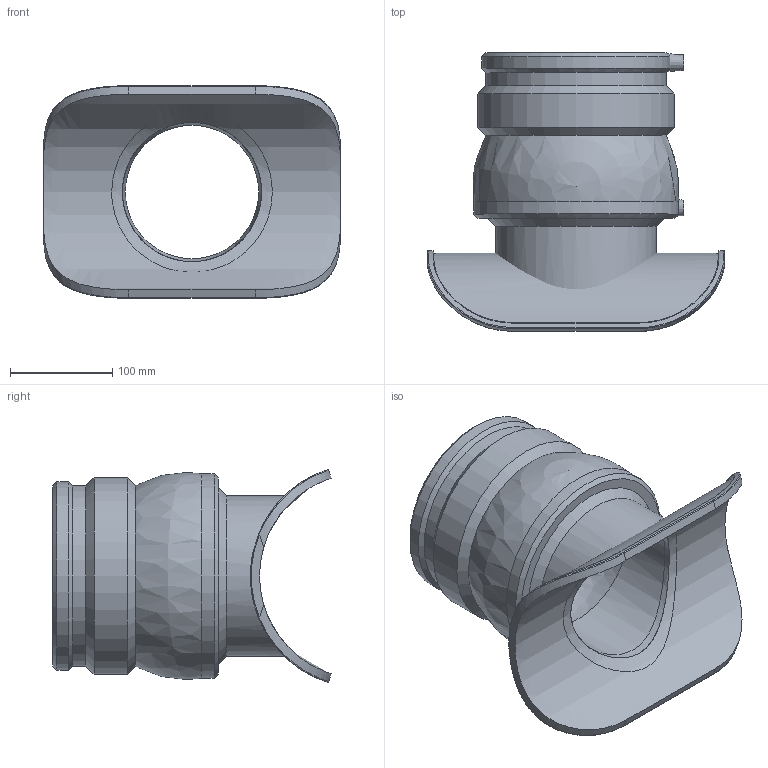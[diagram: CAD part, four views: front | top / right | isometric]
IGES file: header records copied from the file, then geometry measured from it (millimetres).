
Global section: file name: 475804200160.ipt; native system: Autodesk Inventor 2015; preprocessor: unknown; author: Кирилл,,11,0; organization: 20170830.161326; date: 20171106.093456; units: millimetre
Bounding box: 290 x 272.06 x 207.57 mm (x, y, z)
Volume: 2492187.6 mm3; surface area: 377515.3 mm2
Topology: 2 solids, 2 shells, 69 faces, 162 edges, 104 vertices
Faces by surface type: plane 17, cylinder 17, revolution 17, bspline 9, cone 8, sphere 1
Full cylindrical faces by diameter (mm): 4 x2, 156.8 x1, 176 x1, 192 x1
